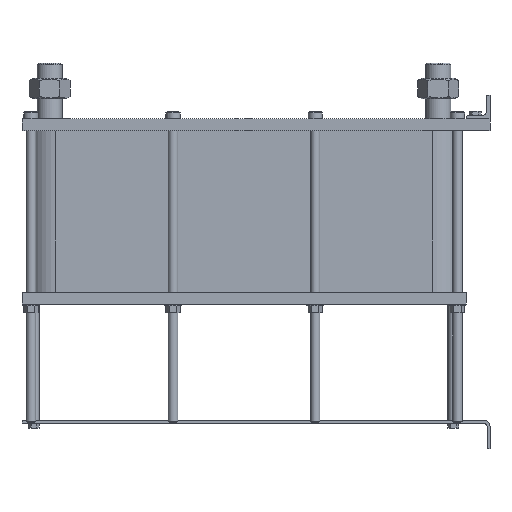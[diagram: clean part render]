
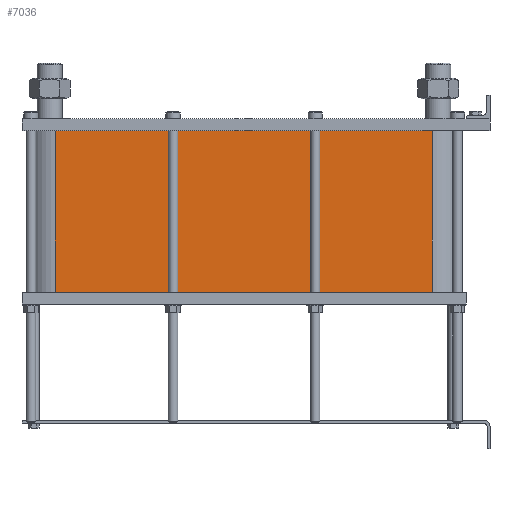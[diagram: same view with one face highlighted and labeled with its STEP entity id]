
A CAD part, left-side view. The second image highlights one B-rep face of the part: STEP entity #7036.
In plain terms, the highlighted planar face has unit normal (-1, 0, 0).
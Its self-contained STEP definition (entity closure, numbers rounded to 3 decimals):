
#999=LINE('',#15640,#1553);
#1031=LINE('',#15723,#1585);
#1032=LINE('',#15726,#1586);
#1033=LINE('',#15727,#1587);
#1553=VECTOR('',#9658,10.);
#1585=VECTOR('',#9736,10.);
#1586=VECTOR('',#9741,10.);
#1587=VECTOR('',#9742,10.);
#2117=FACE_OUTER_BOUND('',#2671,.T.);
#2671=EDGE_LOOP('',(#6246,#6247,#6248,#6249));
#3527=VERTEX_POINT('',#15634);
#3529=VERTEX_POINT('',#15638);
#3556=VERTEX_POINT('',#15720);
#3557=VERTEX_POINT('',#15722);
#4425=EDGE_CURVE('',#3529,#3527,#999,.T.);
#4466=EDGE_CURVE('',#3557,#3556,#1031,.T.);
#4468=EDGE_CURVE('',#3527,#3556,#1032,.T.);
#4469=EDGE_CURVE('',#3557,#3529,#1033,.T.);
#6246=ORIENTED_EDGE('',*,*,#4468,.F.);
#6247=ORIENTED_EDGE('',*,*,#4425,.F.);
#6248=ORIENTED_EDGE('',*,*,#4469,.F.);
#6249=ORIENTED_EDGE('',*,*,#4466,.T.);
#6608=PLANE('',#7812);
#7036=ADVANCED_FACE('',(#2117),#6608,.T.);
#7812=AXIS2_PLACEMENT_3D('',#15725,#9739,#9740);
#9658=DIRECTION('',(0.,0.,-1.));
#9736=DIRECTION('',(0.,0.,-1.));
#9739=DIRECTION('center_axis',(-1.,0.,0.));
#9740=DIRECTION('ref_axis',(0.,1.,0.));
#9741=DIRECTION('',(0.,1.,0.));
#9742=DIRECTION('',(0.,-1.,0.));
#15634=CARTESIAN_POINT('',(-72.,97.5,-272.8));
#15638=CARTESIAN_POINT('',(-72.,97.5,0.));
#15640=CARTESIAN_POINT('',(-72.,97.5,0.));
#15720=CARTESIAN_POINT('',(-72.,733.5,-272.8));
#15722=CARTESIAN_POINT('',(-72.,733.5,0.));
#15723=CARTESIAN_POINT('',(-72.,733.5,0.));
#15725=CARTESIAN_POINT('Origin',(-72.,97.5,0.));
#15726=CARTESIAN_POINT('',(-72.,256.5,-272.8));
#15727=CARTESIAN_POINT('',(-72.,733.5,0.));
